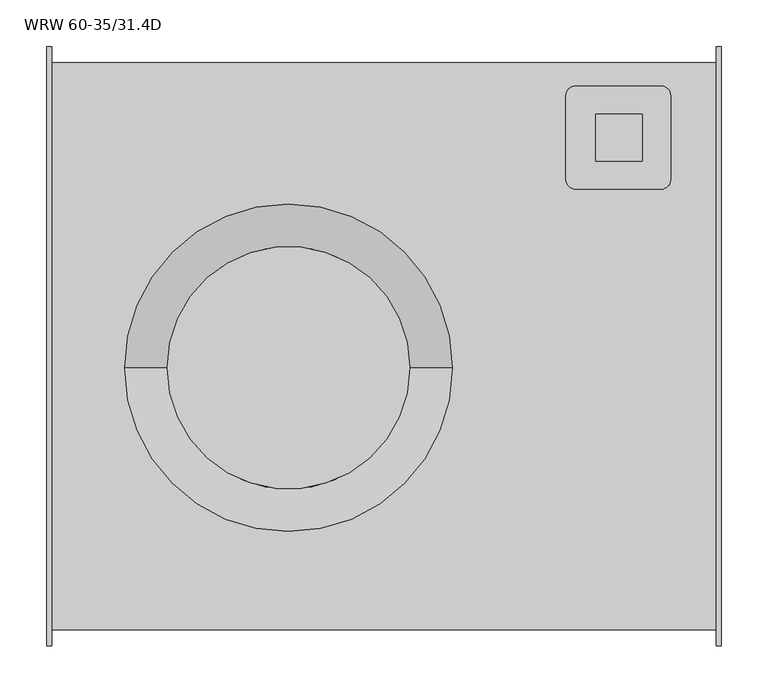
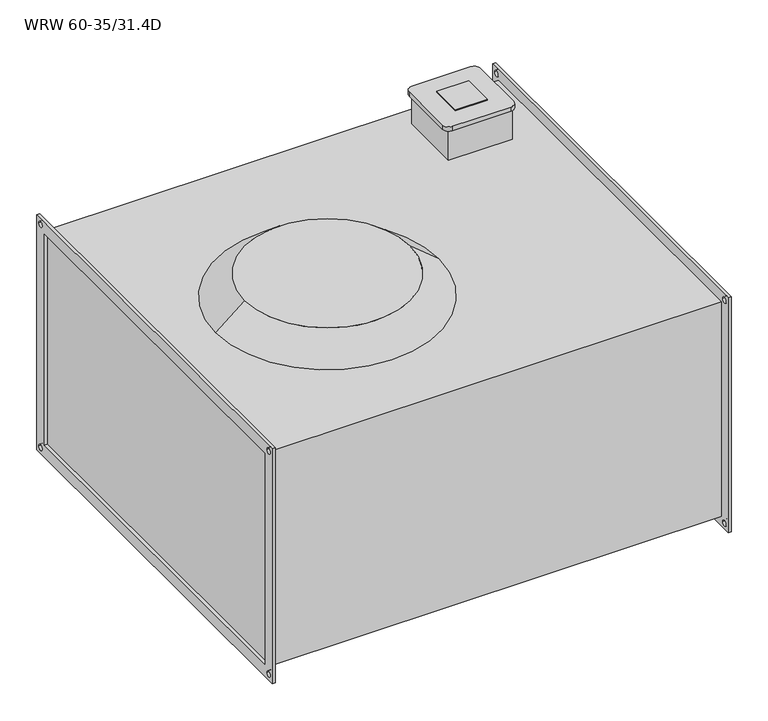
"""IFC4 building model written with IfcOpenShell, lengths in millimetres: proxy geometry, KORF_Вентилятор_WRW : WRW 60-35/31.4D."""

from ifc_helpers import new_model, si_unit, point, frame, frame_2d, origin, place, context, project, spatial, polyline, circle_curve, trimmed, segment, composite_curve, outline, extrude, source, transform, mapped, element, save
from ifc_brep_helpers import plane_surface, cylinder_surface, revolved_surface, advanced_brep


def wrw_60_35_31_4d_17e4d894(model_context):
    return source(origin(), model_context, "Body", "SolidModel", [
        extrude(outline(polyline([(586.0, 198.0), (586.0, 248.0), (636.0, 248.0), (636.0, 198.0), (586.0, 198.0)])), frame((0.0, 0.0, 236.0), z_axis=(0.0, 0.0, 1.0), x_axis=(1.0, 0.0, 0.0)), (0.0, 0.0, 1.0), 2.0),
        advanced_brep(
        [(656.0, 278.0, 236.0), (564.318163, 278.0, 236.0), (554.318163, 268.0, 236.0), (554.318163, 178.0, 236.0), (564.318163, 168.0, 236.0), (656.0, 168.0, 236.0), (666.0, 178.0, 236.0), (666.0, 268.0, 236.0), (656.0, 278.0, 229.0), (666.0, 268.0, 229.0), (666.0, 178.0, 229.0), (656.0, 168.0, 229.0), (564.318163, 168.0, 229.0), (554.318163, 178.0, 229.0), (554.318163, 268.0, 229.0), (564.318163, 278.0, 229.0), (661.0, 273.0, 229.0), (561.0, 273.0, 229.0), (561.0, 173.0, 229.0), (661.0, 173.0, 229.0), (661.0, 273.0, 178.0), (661.0, 173.0, 178.0), (561.0, 173.0, 178.0), (561.0, 273.0, 178.0)],
        [
            (0, 1),
            (1, 2, circle_curve(frame((564.318163, 268.0, 236.0), z_axis=(0.0, 0.0, 1.0), x_axis=(1.0, 0.0, 0.0)), 10.0)),
            (2, 3),
            (3, 4, circle_curve(frame((564.318163, 178.0, 236.0), z_axis=(0.0, 0.0, 1.0), x_axis=(1.0, 0.0, 0.0)), 10.0)),
            (4, 5),
            (5, 6, circle_curve(frame((656.0, 178.0, 236.0), z_axis=(0.0, 0.0, 1.0), x_axis=(1.0, 0.0, 0.0)), 10.0)),
            (6, 7),
            (7, 0, circle_curve(frame((656.0, 268.0, 236.0), z_axis=(0.0, 0.0, 1.0), x_axis=(1.0, 0.0, 0.0)), 10.0)),
            (8, 9, circle_curve(frame((656.0, 268.0, 229.0), z_axis=(0.0, 0.0, -1.0), x_axis=(1.0, 0.0, 0.0)), 10.0)),
            (9, 10),
            (10, 11, circle_curve(frame((656.0, 178.0, 229.0), z_axis=(0.0, 0.0, -1.0), x_axis=(1.0, 0.0, 0.0)), 10.0)),
            (11, 12),
            (12, 13, circle_curve(frame((564.318163, 178.0, 229.0), z_axis=(0.0, 0.0, -1.0), x_axis=(1.0, 0.0, 0.0)), 10.0)),
            (13, 14),
            (14, 15, circle_curve(frame((564.318163, 268.0, 229.0), z_axis=(0.0, 0.0, -1.0), x_axis=(1.0, 0.0, 0.0)), 10.0)),
            (15, 8),
            (16, 17),
            (17, 18),
            (18, 19),
            (19, 16),
            (0, 8),
            (15, 1),
            (14, 2),
            (13, 3),
            (12, 4),
            (11, 5),
            (10, 6),
            (9, 7),
            (20, 21),
            (21, 22),
            (22, 23),
            (23, 20),
            (23, 17),
            (16, 20),
            (22, 18),
            (21, 19),
        ],
        [
            plane_surface(frame((564.318163, 278.0, 236.0), z_axis=(0.0, 0.0, 1.0), x_axis=(-1.0, 0.0, 0.0))),
            plane_surface(frame((564.318163, 278.0, 229.0), z_axis=(0.0, 0.0, -1.0), x_axis=(1.0, 0.0, 0.0))),
            plane_surface(frame((656.0, 278.0, 236.0), z_axis=(0.0, 1.0, 0.0), x_axis=(0.0, 0.0, -1.0))),
            cylinder_surface(frame((564.318163, 268.0, 229.0), z_axis=(0.0, 0.0, 1.0), x_axis=(1.0, 0.0, 0.0)), 10.0),
            plane_surface(frame((554.318163, 268.0, 236.0), z_axis=(-1.0, 0.0, 0.0), x_axis=(0.0, 0.0, -1.0))),
            cylinder_surface(frame((564.318163, 178.0, 229.0), z_axis=(0.0, 0.0, 1.0), x_axis=(1.0, 0.0, 0.0)), 10.0),
            plane_surface(frame((564.318163, 168.0, 236.0), z_axis=(0.0, -1.0, 0.0), x_axis=(0.0, 0.0, -1.0))),
            cylinder_surface(frame((656.0, 178.0, 229.0), z_axis=(0.0, 0.0, 1.0), x_axis=(1.0, 0.0, 0.0)), 10.0),
            plane_surface(frame((666.0, 178.0, 236.0), z_axis=(1.0, 0.0, 0.0), x_axis=(0.0, 0.0, -1.0))),
            cylinder_surface(frame((656.0, 268.0, 229.0), z_axis=(0.0, 0.0, 1.0), x_axis=(1.0, 0.0, 0.0)), 10.0),
            plane_surface(frame((561.0, 273.0, 178.0), z_axis=(0.0, 0.0, -1.0), x_axis=(1.0, 0.0, 0.0))),
            plane_surface(frame((661.0, 273.0, 236.0), z_axis=(0.0, 1.0, 0.0), x_axis=(0.0, 0.0, -1.0))),
            plane_surface(frame((561.0, 273.0, 236.0), z_axis=(-1.0, 0.0, 0.0), x_axis=(0.0, 0.0, -1.0))),
            plane_surface(frame((561.0, 173.0, 236.0), z_axis=(0.0, -1.0, 0.0), x_axis=(0.0, 0.0, -1.0))),
            plane_surface(frame((661.0, 173.0, 236.0), z_axis=(1.0, 0.0, 0.0), x_axis=(0.0, 0.0, -1.0))),
        ],
        [
            (0, [[1, 2, 3, 4, 5, 6, 7, 8]]),
            (1, [[9, 10, 11, 12, 13, 14, 15, 16], [17, 18, 19, 20]]),
            (2, [[-1, 21, -16, 22]]),
            (3, [[-2, -22, -15, 23]]),
            (4, [[-3, -23, -14, 24]]),
            (5, [[-4, -24, -13, 25]]),
            (6, [[-5, -25, -12, 26]]),
            (7, [[-6, -26, -11, 27]]),
            (8, [[-7, -27, -10, 28]]),
            (9, [[-8, -28, -9, -21]]),
            (10, [[29, 30, 31, 32]]),
            (11, [[-32, 33, -17, 34]]),
            (12, [[-31, 35, -18, -33]]),
            (13, [[-30, 36, -19, -35]]),
            (14, [[-29, -34, -20, -36]]),
        ],
    ),
        advanced_brep(
        [(83.0, -23.0, 178.0), (433.0, -23.0, 178.0), (128.5, -23.0, 215.5), (387.5, -23.0, 215.5)],
        [
            (0, 1, circle_curve(frame((258.0, -23.0, 178.0), z_axis=(0.0, 0.0, -1.0), x_axis=(-1.0, 0.0, 0.0)), 175.0)),
            (1, 0, circle_curve(frame((258.0, -23.0, 178.0), z_axis=(0.0, 0.0, -1.0), x_axis=(1.0, 0.0, 0.0)), 175.0)),
            (2, 3, circle_curve(frame((258.0, -23.0, 215.5), z_axis=(0.0, 0.0, 1.0), x_axis=(1.0, 0.0, 0.0)), 129.5)),
            (3, 2, circle_curve(frame((258.0, -23.0, 215.5), z_axis=(0.0, 0.0, 1.0), x_axis=(-1.0, 0.0, 0.0)), 129.5)),
            (2, 0),
            (1, 3),
        ],
        [
            plane_surface(frame((258.0, -23.0, 178.0), z_axis=(0.0, 0.0, -1.0), x_axis=(0.0, -1.0, 0.0))),
            plane_surface(frame((258.0, -23.0, 215.5), z_axis=(0.0, 0.0, 1.0), x_axis=(0.0, -1.0, 0.0))),
            revolved_surface(polyline([(128.50000000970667, -23.0, 215.5), (83.0, -23.0, 178.0)]), (258.0, -23.0, 322.2307692), (0.0, 0.0, -1.0)),
            revolved_surface(polyline([(387.4999999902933, -23.0, 215.5), (433.0, -23.0, 178.0)]), (258.0, -23.0, 322.2307692), (0.0, 0.0, -1.0)),
        ],
        [
            (0, [[1, 2]]),
            (1, [[3, 4]]),
            (2, [[-3, 5, -2, 6]]),
            (3, [[-4, -6, -1, -5]]),
        ],
    ),
        extrude(outline(polyline([(-320.0, 195.0), (320.0, 195.0), (320.0, -195.0), (-320.0, -195.0), (-320.0, 195.0)]), holes=[polyline([(-300.0, 175.0), (-300.0, -175.0), (300.0, -175.0), (300.0, 175.0), (-300.0, 175.0)]), composite_curve([segment(trimmed(circle_curve(frame_2d((310.0, 185.0)), 4.5), [point((305.5, 185.0))], [point((314.5, 185.0))], True, "CARTESIAN"), True, "CONTINUOUS"), segment(trimmed(circle_curve(frame_2d((310.0, 185.0)), 4.5), [point((314.5, 185.0))], [point((305.5, 185.0))], True, "CARTESIAN"), True, "CONTINUOUS")], self_intersect=False), composite_curve([segment(trimmed(circle_curve(frame_2d((-310.0, 185.0)), 4.5), [point((-314.5, 185.0))], [point((-305.5, 185.0))], True, "CARTESIAN"), True, "CONTINUOUS"), segment(trimmed(circle_curve(frame_2d((-310.0, 185.0)), 4.5), [point((-305.5, 185.0))], [point((-314.5, 185.0))], True, "CARTESIAN"), True, "CONTINUOUS")], self_intersect=False), composite_curve([segment(trimmed(circle_curve(frame_2d((-310.0, -185.0)), 4.5), [point((-314.5, -185.0))], [point((-305.5, -185.0))], True, "CARTESIAN"), True, "CONTINUOUS"), segment(trimmed(circle_curve(frame_2d((-310.0, -185.0)), 4.5), [point((-305.5, -185.0))], [point((-314.5, -185.0))], True, "CARTESIAN"), True, "CONTINUOUS")], self_intersect=False), composite_curve([segment(trimmed(circle_curve(frame_2d((310.0, -185.0)), 4.5), [point((305.5, -185.0))], [point((314.5, -185.0))], True, "CARTESIAN"), True, "CONTINUOUS"), segment(trimmed(circle_curve(frame_2d((310.0, -185.0)), 4.5), [point((314.5, -185.0))], [point((305.5, -185.0))], True, "CARTESIAN"), True, "CONTINUOUS")], self_intersect=False)]), frame((715.0, 0.0, 0.0), z_axis=(1.0, 0.0, 0.0), x_axis=(0.0, 1.0, 0.0)), (0.0, 0.0, 1.0), 5.0),
        extrude(outline(polyline([(-320.0, 195.0), (320.0, 195.0), (320.0, -195.0), (-320.0, -195.0), (-320.0, 195.0)]), holes=[polyline([(-300.0, 175.0), (-300.0, -175.0), (300.0, -175.0), (300.0, 175.0), (-300.0, 175.0)]), composite_curve([segment(trimmed(circle_curve(frame_2d((310.0, 185.0)), 4.5), [point((305.5, 185.0))], [point((314.5, 185.0))], True, "CARTESIAN"), True, "CONTINUOUS"), segment(trimmed(circle_curve(frame_2d((310.0, 185.0)), 4.5), [point((314.5, 185.0))], [point((305.5, 185.0))], True, "CARTESIAN"), True, "CONTINUOUS")], self_intersect=False), composite_curve([segment(trimmed(circle_curve(frame_2d((-310.0, 185.0)), 4.5), [point((-314.5, 185.0))], [point((-305.5, 185.0))], True, "CARTESIAN"), True, "CONTINUOUS"), segment(trimmed(circle_curve(frame_2d((-310.0, 185.0)), 4.5), [point((-305.5, 185.0))], [point((-314.5, 185.0))], True, "CARTESIAN"), True, "CONTINUOUS")], self_intersect=False), composite_curve([segment(trimmed(circle_curve(frame_2d((-310.0, -185.0)), 4.5), [point((-314.5, -185.0))], [point((-305.5, -185.0))], True, "CARTESIAN"), True, "CONTINUOUS"), segment(trimmed(circle_curve(frame_2d((-310.0, -185.0)), 4.5), [point((-305.5, -185.0))], [point((-314.5, -185.0))], True, "CARTESIAN"), True, "CONTINUOUS")], self_intersect=False), composite_curve([segment(trimmed(circle_curve(frame_2d((310.0, -185.0)), 4.5), [point((305.5, -185.0))], [point((314.5, -185.0))], True, "CARTESIAN"), True, "CONTINUOUS"), segment(trimmed(circle_curve(frame_2d((310.0, -185.0)), 4.5), [point((314.5, -185.0))], [point((305.5, -185.0))], True, "CARTESIAN"), True, "CONTINUOUS")], self_intersect=False)]), frame((0.0, 0.0, 0.0), z_axis=(1.0, 0.0, 0.0), x_axis=(0.0, 1.0, 0.0)), (0.0, 0.0, 1.0), 5.0),
        extrude(outline(polyline([(715.0, 303.0), (715.0, -303.0), (5.0, -303.0), (5.0, 303.0), (715.0, 303.0)])), frame((0.0, 0.0, -178.0), z_axis=(0.0, 0.0, 1.0), x_axis=(1.0, 0.0, 0.0)), (0.0, 0.0, 1.0), 356.0),
    ])


if __name__ == "__main__":
    model = new_model("IFC4")
    model_context = context("Model", 3, world=origin())
    ifc_project = project(units=[si_unit("LENGTHUNIT", "METRE", prefix="MILLI")], contexts=[model_context])
    site = spatial("IfcSite", under=ifc_project)
    building = spatial("IfcBuilding", under=site)
    placement = place(None, origin())
    wrw_60_35_31_4d_shape = wrw_60_35_31_4d_17e4d894(model_context)
    element("IfcBuildingElementProxy", 1, Name="KORF_Вентилятор_WRW : WRW 60-35/31.4D", ObjectType="KORF_Вентилятор_WRW : WRW 60-35/31.4D", at=placement, inside=building, context=model_context, shape_type="MappedRepresentation", body=[
        mapped(wrw_60_35_31_4d_shape, transform((0.0, 0.0, 0.0), x_axis=(1.0, 0.0, 0.0), y_axis=(0.0, 1.0, 0.0), z_axis=(0.0, 0.0, 1.0))),
    ])
    save(model, "model.ifc")
